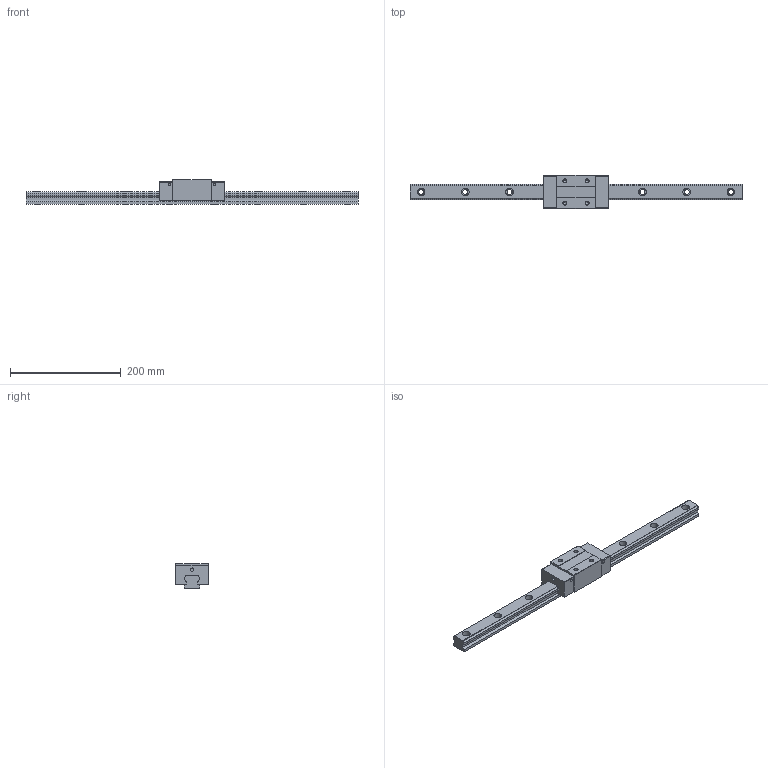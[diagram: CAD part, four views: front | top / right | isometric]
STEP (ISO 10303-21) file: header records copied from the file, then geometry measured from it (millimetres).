
FILE_DESCRIPTION (( 'STEP AP203' ), '1' );
FILE_NAME ('TRH30VN-WZ.STEP', '2024-05-17T01:40:24', ( '' ), ( '' ), 'SwSTEP 2.0', 'SolidWorks 2022', '' );
FILE_SCHEMA (( 'CONFIG_CONTROL_DESIGN' ));
Length unit declared in the file: millimetre
Products named in the file (1): TRH30VN-WZ
Bounding box: 600 x 60 x 45 mm (x, y, z)
Volume: 526844.5 mm3; surface area: 101808.6 mm2
Topology: 2 solids, 2 shells, 186 faces, 488 edges, 316 vertices
Faces by surface type: cylinder 88, plane 82, cone 16
Entity records: 5819 total; most frequent: DIRECTION 1038, CARTESIAN_POINT 983, ORIENTED_EDGE 960, EDGE_CURVE 480, AXIS2_PLACEMENT_3D 371, VERTEX_POINT 316, LINE 296, VECTOR 296
